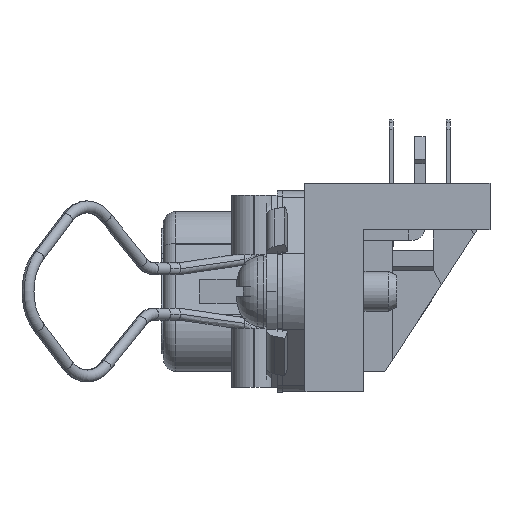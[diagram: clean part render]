
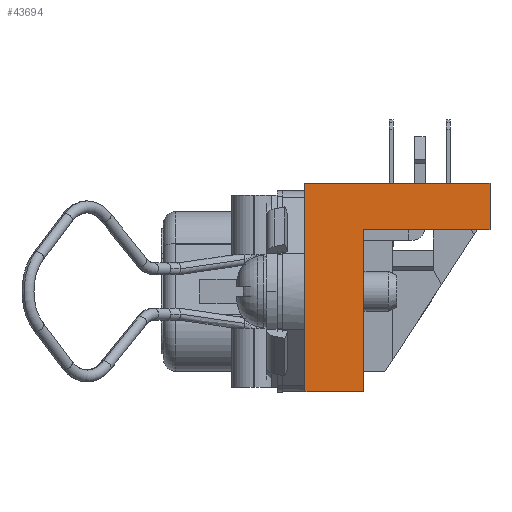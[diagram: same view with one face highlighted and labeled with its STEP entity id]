
A CAD part, left-side view. The second image highlights one B-rep face of the part: STEP entity #43694.
In plain terms, the highlighted planar face has unit normal (-1, 0, 0).
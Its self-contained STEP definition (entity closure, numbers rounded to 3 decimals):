
#128 = LINE ( 'NONE', #38103, #24326 ) ;
#321 = CARTESIAN_POINT ( 'NONE',  ( -41.425, -12.7, 4.63 ) ) ;
#2679 = VERTEX_POINT ( 'NONE', #18506 ) ;
#4299 = CARTESIAN_POINT ( 'NONE',  ( -41.425, 1.2, -7.55 ) ) ;
#5212 = DIRECTION ( 'NONE',  ( 0., 1., 0. ) ) ;
#5253 = VECTOR ( 'NONE', #55994, 1000. ) ;
#7929 = ORIENTED_EDGE ( 'NONE', *, *, #68866, .T. ) ;
#8534 = LINE ( 'NONE', #32342, #17507 ) ;
#8738 = DIRECTION ( 'NONE',  ( 0., 0., -1. ) ) ;
#8978 = CARTESIAN_POINT ( 'NONE',  ( -41.425, -12.7, -7.55 ) ) ;
#9726 = LINE ( 'NONE', #68366, #5253 ) ;
#9836 = DIRECTION ( 'NONE',  ( 0., 0., -1. ) ) ;
#10650 = AXIS2_PLACEMENT_3D ( 'NONE', #38982, #63113, #39976 ) ;
#12667 = VECTOR ( 'NONE', #9836, 1000. ) ;
#14311 = DIRECTION ( 'NONE',  ( 0., 0., -1. ) ) ;
#17507 = VECTOR ( 'NONE', #14311, 1000. ) ;
#18506 = CARTESIAN_POINT ( 'NONE',  ( -41.425, 1.2, 0. ) ) ;
#19428 = ORIENTED_EDGE ( 'NONE', *, *, #23076, .F. ) ;
#20292 = DIRECTION ( 'NONE',  ( 0., -1., 0. ) ) ;
#21749 = LINE ( 'NONE', #4299, #12667 ) ;
#21939 = VECTOR ( 'NONE', #8738, 1000. ) ;
#21942 = ORIENTED_EDGE ( 'NONE', *, *, #52157, .F. ) ;
#22156 = VERTEX_POINT ( 'NONE', #41224 ) ;
#22162 = PLANE ( 'NONE',  #10650 ) ;
#22500 = EDGE_CURVE ( 'NONE', #63942, #2679, #21749, .T. ) ;
#23076 = EDGE_CURVE ( 'NONE', #63942, #63726, #128, .T. ) ;
#24326 = VECTOR ( 'NONE', #20292, 1000. ) ;
#30305 = EDGE_CURVE ( 'NONE', #36621, #22156, #9726, .T. ) ;
#31243 = ORIENTED_EDGE ( 'NONE', *, *, #45934, .T. ) ;
#32342 = CARTESIAN_POINT ( 'NONE',  ( -41.425, 1.2, -7.55 ) ) ;
#36621 = VERTEX_POINT ( 'NONE', #41995 ) ;
#37942 = CARTESIAN_POINT ( 'NONE',  ( -41.425, 1.2, -7.55 ) ) ;
#38103 = CARTESIAN_POINT ( 'NONE',  ( -41.425, 1.2, 8.13 ) ) ;
#38982 = CARTESIAN_POINT ( 'NONE',  ( -41.425, 1.2, -7.55 ) ) ;
#39555 = CARTESIAN_POINT ( 'NONE',  ( -41.425, 1.2, 4.63 ) ) ;
#39976 = DIRECTION ( 'NONE',  ( 0., 1., 0. ) ) ;
#41224 = CARTESIAN_POINT ( 'NONE',  ( -41.425, -3.2, 4.63 ) ) ;
#41743 = ORIENTED_EDGE ( 'NONE', *, *, #63689, .F. ) ;
#41995 = CARTESIAN_POINT ( 'NONE',  ( -41.425, -3.2, -7.55 ) ) ;
#43375 = ORIENTED_EDGE ( 'NONE', *, *, #22500, .T. ) ;
#43615 = ORIENTED_EDGE ( 'NONE', *, *, #30305, .T. ) ;
#43694 = ADVANCED_FACE ( 'NONE', ( #55511 ), #22162, .T. ) ;
#45934 = EDGE_CURVE ( 'NONE', #50735, #36621, #60451, .T. ) ;
#48934 = LINE ( 'NONE', #8978, #21939 ) ;
#50735 = VERTEX_POINT ( 'NONE', #63023 ) ;
#50894 = CARTESIAN_POINT ( 'NONE',  ( -41.425, 1.2, 8.13 ) ) ;
#52157 = EDGE_CURVE ( 'NONE', #71235, #22156, #62711, .T. ) ;
#55511 = FACE_OUTER_BOUND ( 'NONE', #60457, .T. ) ;
#55994 = DIRECTION ( 'NONE',  ( 0., 0., 1. ) ) ;
#59522 = VECTOR ( 'NONE', #74143, 1000. ) ;
#60183 = CARTESIAN_POINT ( 'NONE',  ( -41.425, -12.7, 8.13 ) ) ;
#60451 = LINE ( 'NONE', #37942, #59522 ) ;
#60457 = EDGE_LOOP ( 'NONE', ( #21942, #41743, #19428, #43375, #7929, #31243, #43615 ) ) ;
#62711 = LINE ( 'NONE', #39555, #72539 ) ;
#63023 = CARTESIAN_POINT ( 'NONE',  ( -41.425, 1.2, -7.55 ) ) ;
#63113 = DIRECTION ( 'NONE',  ( -1., 0., 0. ) ) ;
#63689 = EDGE_CURVE ( 'NONE', #63726, #71235, #48934, .T. ) ;
#63726 = VERTEX_POINT ( 'NONE', #60183 ) ;
#63942 = VERTEX_POINT ( 'NONE', #50894 ) ;
#68366 = CARTESIAN_POINT ( 'NONE',  ( -41.425, -3.2, -7.55 ) ) ;
#68866 = EDGE_CURVE ( 'NONE', #2679, #50735, #8534, .T. ) ;
#71235 = VERTEX_POINT ( 'NONE', #321 ) ;
#72539 = VECTOR ( 'NONE', #5212, 1000. ) ;
#74143 = DIRECTION ( 'NONE',  ( 0., -1., 0. ) ) ;
